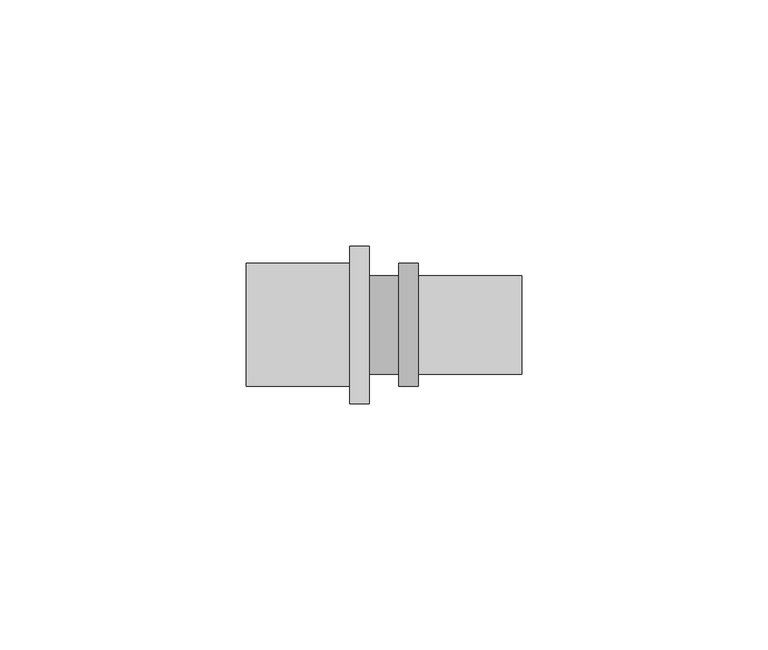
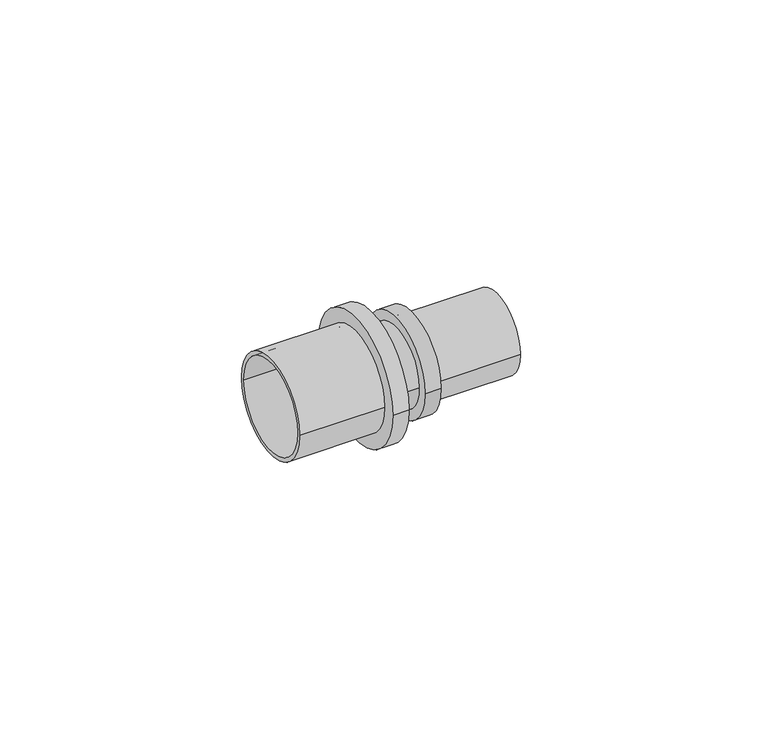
"""IFC4 building model written with IfcOpenShell, lengths in millimetres: pipe fitting geometry, БИР ПЕКС_НПР_Муфта редукционная : Муфта соединительная редукционная."""

from ifc_helpers import new_model, si_unit, point, frame, origin, origin_2d, place, context, project, spatial, circle_curve, trimmed, segment, composite_curve, outline, extrude, source, transform, mapped, element, save


def pipe_fitting_c8a579e9(model_context):
    return source(origin(), model_context, "Body", "SweptSolid", [
        extrude(outline(composite_curve([segment(trimmed(circle_curve(origin_2d(), 10.0), [point((-10.0, 0.0))], [point((10.0, 0.0))], False, "CARTESIAN"), True, "CONTINUOUS"), segment(trimmed(circle_curve(origin_2d(), 10.0), [point((10.0, 0.0))], [point((-10.0, 0.0))], False, "CARTESIAN"), True, "CONTINUOUS")], self_intersect=False)), frame((-3.0, 0.0, 0.0), z_axis=(1.0, 0.0, 0.0), x_axis=(0.0, 1.0, 0.0)), (0.0, 0.0, 1.0), 6.0),
        extrude(outline(composite_curve([segment(trimmed(circle_curve(origin_2d(), 10.0), [point((-10.0, 0.0))], [point((10.0, 0.0))], False, "CARTESIAN"), True, "CONTINUOUS"), segment(trimmed(circle_curve(origin_2d(), 10.0), [point((10.0, 0.0))], [point((-10.0, 0.0))], False, "CARTESIAN"), True, "CONTINUOUS")], self_intersect=False), holes=[composite_curve([segment(trimmed(circle_curve(origin_2d(), 9.0), [point((-9.0, 0.0))], [point((9.0, 0.0))], True, "CARTESIAN"), True, "CONTINUOUS"), segment(trimmed(circle_curve(origin_2d(), 9.0), [point((9.0, 0.0))], [point((-9.0, 0.0))], True, "CARTESIAN"), True, "CONTINUOUS")], self_intersect=False)]), frame((7.0, 0.0, 0.0), z_axis=(1.0, 0.0, 0.0), x_axis=(0.0, 1.0, 0.0)), (0.0, 0.0, 1.0), 21.0),
        extrude(outline(composite_curve([segment(trimmed(circle_curve(origin_2d(), 12.5), [point((-12.5, 0.0))], [point((12.5, 0.0))], False, "CARTESIAN"), True, "CONTINUOUS"), segment(trimmed(circle_curve(origin_2d(), 12.5), [point((12.5, 0.0))], [point((-12.5, 0.0))], False, "CARTESIAN"), True, "CONTINUOUS")], self_intersect=False), holes=[composite_curve([segment(trimmed(circle_curve(origin_2d(), 11.5), [point((-11.5, 0.0))], [point((11.5, 0.0))], True, "CARTESIAN"), True, "CONTINUOUS"), segment(trimmed(circle_curve(origin_2d(), 11.5), [point((11.5, 0.0))], [point((-11.5, 0.0))], True, "CARTESIAN"), True, "CONTINUOUS")], self_intersect=False)]), frame((-28.0, 0.0, 0.0), z_axis=(1.0, 0.0, 0.0), x_axis=(0.0, 1.0, 0.0)), (0.0, 0.0, 1.0), 21.0),
        extrude(outline(composite_curve([segment(trimmed(circle_curve(origin_2d(), 12.5), [point((-12.5, 0.0))], [point((12.5, 0.0))], False, "CARTESIAN"), True, "CONTINUOUS"), segment(trimmed(circle_curve(origin_2d(), 12.5), [point((12.5, 0.0))], [point((-12.5, 0.0))], False, "CARTESIAN"), True, "CONTINUOUS")], self_intersect=False), holes=[composite_curve([segment(trimmed(circle_curve(origin_2d(), 10.0), [point((-10.0, 0.0))], [point((10.0, 0.0))], True, "CARTESIAN"), True, "CONTINUOUS"), segment(trimmed(circle_curve(origin_2d(), 10.0), [point((10.0, 0.0))], [point((-10.0, 0.0))], True, "CARTESIAN"), True, "CONTINUOUS")], self_intersect=False)]), frame((3.0, 0.0, 0.0), z_axis=(1.0, 0.0, 0.0), x_axis=(0.0, 1.0, 0.0)), (0.0, 0.0, 1.0), 4.0),
        extrude(outline(composite_curve([segment(trimmed(circle_curve(origin_2d(), 16.0), [point((-16.0, 0.0))], [point((16.0, 0.0))], False, "CARTESIAN"), True, "CONTINUOUS"), segment(trimmed(circle_curve(origin_2d(), 16.0), [point((16.0, 0.0))], [point((-16.0, 0.0))], False, "CARTESIAN"), True, "CONTINUOUS")], self_intersect=False), holes=[composite_curve([segment(trimmed(circle_curve(origin_2d(), 10.0), [point((-10.0, 0.0))], [point((10.0, 0.0))], True, "CARTESIAN"), True, "CONTINUOUS"), segment(trimmed(circle_curve(origin_2d(), 10.0), [point((10.0, 0.0))], [point((-10.0, 0.0))], True, "CARTESIAN"), True, "CONTINUOUS")], self_intersect=False)]), frame((-7.0, 0.0, 0.0), z_axis=(1.0, 0.0, 0.0), x_axis=(0.0, 1.0, 0.0)), (0.0, 0.0, 1.0), 4.0),
    ])


if __name__ == "__main__":
    model = new_model("IFC4")
    model_context = context("Model", 3, world=origin())
    ifc_project = project(units=[si_unit("LENGTHUNIT", "METRE", prefix="MILLI")], contexts=[model_context])
    site = spatial("IfcSite", under=ifc_project)
    building = spatial("IfcBuilding", under=site)
    placement = place(None, origin())
    pipe_fitting_shape = pipe_fitting_c8a579e9(model_context)
    element("IfcPipeFitting", 1, ObjectType="БИР ПЕКС_НПР_Муфта редукционная : Муфта соединительная редукционная", at=placement, inside=building, context=model_context, shape_type="MappedRepresentation", body=[
        mapped(pipe_fitting_shape, transform((0.0, 0.0, 0.0), x_axis=(1.0, 0.0, 0.0), y_axis=(0.0, 1.0, 0.0), z_axis=(0.0, 0.0, 1.0))),
    ])
    save(model, "model.ifc")
